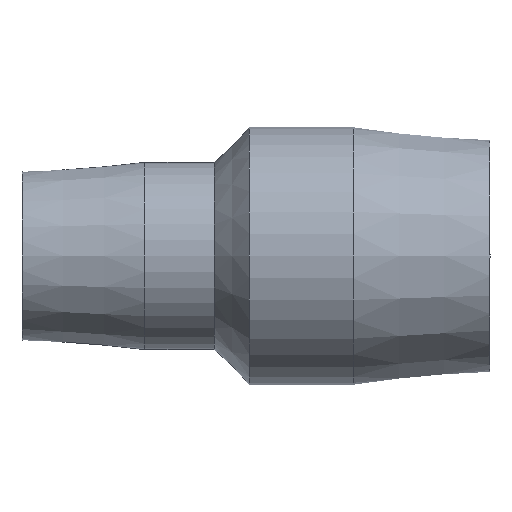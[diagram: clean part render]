
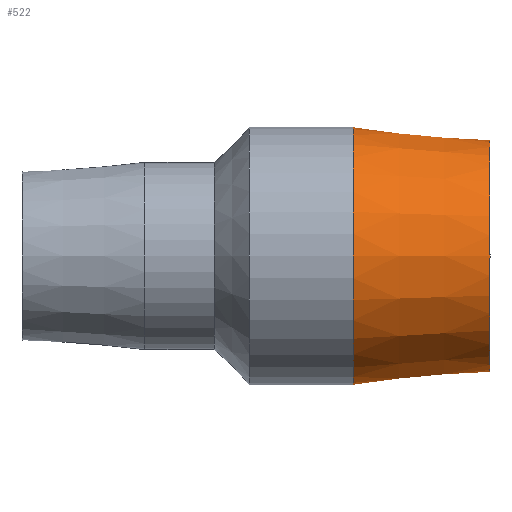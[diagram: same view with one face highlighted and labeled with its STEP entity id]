
A CAD part, front view. The second image highlights one B-rep face of the part: STEP entity #522.
In plain terms, the highlighted conical face has half-angle 5.371 degrees and reference radius 20.9 mm.
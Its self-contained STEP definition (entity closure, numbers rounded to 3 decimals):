
#15=B_SPLINE_CURVE_WITH_KNOTS('',3,(#851,#852,#853,#854,#855,#856,#857,
#858,#859,#860,#861,#862,#863,#864,#865,#866,#867,#868,#869,#870,#871,#872,
#873,#874,#875,#876),.UNSPECIFIED.,.F.,.F.,(4,2,2,2,2,2,2,2,2,2,2,2,4),
(0.,0.347,0.695,1.046,1.396,
1.747,2.098,2.446,2.793,3.175,
3.557,3.927,4.297),.UNSPECIFIED.);
#16=B_SPLINE_CURVE_WITH_KNOTS('',3,(#877,#878,#879,#880,#881,#882,#883,
#884,#885,#886),.UNSPECIFIED.,.F.,.F.,(4,2,2,2,4),(4.297,4.668,
5.038,5.42,5.801),.UNSPECIFIED.);
#25=CONICAL_SURFACE('',#594,20.9,0.094);
#34=FACE_BOUND('',#143,.T.);
#50=LINE('',#984,#69);
#69=VECTOR('',#729,20.9);
#106=FACE_OUTER_BOUND('',#142,.T.);
#142=EDGE_LOOP('',(#405,#406,#407,#408,#409,#410));
#143=EDGE_LOOP('',(#411,#412));
#183=CIRCLE('',#592,22.);
#184=CIRCLE('',#593,22.);
#185=CIRCLE('',#595,19.8);
#186=CIRCLE('',#596,19.8);
#222=VERTEX_POINT('',#849);
#223=VERTEX_POINT('',#850);
#237=VERTEX_POINT('',#974);
#238=VERTEX_POINT('',#975);
#239=VERTEX_POINT('',#980);
#240=VERTEX_POINT('',#981);
#278=EDGE_CURVE('',#222,#223,#15,.T.);
#279=EDGE_CURVE('',#223,#222,#16,.T.);
#301=EDGE_CURVE('',#237,#238,#183,.T.);
#302=EDGE_CURVE('',#238,#237,#184,.T.);
#304=EDGE_CURVE('',#239,#240,#185,.T.);
#305=EDGE_CURVE('',#240,#239,#186,.T.);
#306=EDGE_CURVE('',#240,#238,#50,.T.);
#405=ORIENTED_EDGE('',*,*,#304,.F.);
#406=ORIENTED_EDGE('',*,*,#305,.F.);
#407=ORIENTED_EDGE('',*,*,#306,.T.);
#408=ORIENTED_EDGE('',*,*,#302,.T.);
#409=ORIENTED_EDGE('',*,*,#301,.T.);
#410=ORIENTED_EDGE('',*,*,#306,.F.);
#411=ORIENTED_EDGE('',*,*,#278,.T.);
#412=ORIENTED_EDGE('',*,*,#279,.T.);
#522=ADVANCED_FACE('',(#106,#34),#25,.T.);
#592=AXIS2_PLACEMENT_3D('',#976,#718,#719);
#593=AXIS2_PLACEMENT_3D('',#977,#720,#721);
#594=AXIS2_PLACEMENT_3D('',#979,#723,#724);
#595=AXIS2_PLACEMENT_3D('',#982,#725,#726);
#596=AXIS2_PLACEMENT_3D('',#983,#727,#728);
#718=DIRECTION('center_axis',(1.,0.,0.));
#719=DIRECTION('ref_axis',(0.,0.,-1.));
#720=DIRECTION('center_axis',(1.,0.,0.));
#721=DIRECTION('ref_axis',(0.,0.,-1.));
#723=DIRECTION('center_axis',(-1.,0.,0.));
#724=DIRECTION('ref_axis',(0.,1.,0.));
#725=DIRECTION('center_axis',(1.,0.,0.));
#726=DIRECTION('ref_axis',(0.,0.,-1.));
#727=DIRECTION('center_axis',(1.,0.,0.));
#728=DIRECTION('ref_axis',(0.,0.,-1.));
#729=DIRECTION('',(-0.996,-0.094,0.));
#849=CARTESIAN_POINT('',(28.479,18.578,-9.537));
#850=CARTESIAN_POINT('',(18.733,21.799,0.));
#851=CARTESIAN_POINT('Ctrl Pts',(28.479,18.578,-9.537));
#852=CARTESIAN_POINT('Ctrl Pts',(29.633,18.482,-9.488));
#853=CARTESIAN_POINT('Ctrl Pts',(30.85,18.505,-9.202));
#854=CARTESIAN_POINT('Ctrl Pts',(33.059,18.756,-8.172));
#855=CARTESIAN_POINT('Ctrl Pts',(34.053,18.975,-7.428));
#856=CARTESIAN_POINT('Ctrl Pts',(35.617,19.394,-5.756));
#857=CARTESIAN_POINT('Ctrl Pts',(36.295,19.625,-4.706));
#858=CARTESIAN_POINT('Ctrl Pts',(37.198,19.951,-2.413));
#859=CARTESIAN_POINT('Ctrl Pts',(37.421,20.042,-1.169));
#860=CARTESIAN_POINT('Ctrl Pts',(37.421,20.042,1.169));
#861=CARTESIAN_POINT('Ctrl Pts',(37.198,19.951,2.413));
#862=CARTESIAN_POINT('Ctrl Pts',(36.295,19.625,4.706));
#863=CARTESIAN_POINT('Ctrl Pts',(35.617,19.394,5.756));
#864=CARTESIAN_POINT('Ctrl Pts',(34.053,18.975,7.428));
#865=CARTESIAN_POINT('Ctrl Pts',(33.059,18.756,8.172));
#866=CARTESIAN_POINT('Ctrl Pts',(30.85,18.505,9.202));
#867=CARTESIAN_POINT('Ctrl Pts',(29.633,18.482,9.488));
#868=CARTESIAN_POINT('Ctrl Pts',(27.212,18.684,9.592));
#869=CARTESIAN_POINT('Ctrl Pts',(25.887,18.944,9.37));
#870=CARTESIAN_POINT('Ctrl Pts',(23.478,19.638,8.406));
#871=CARTESIAN_POINT('Ctrl Pts',(22.39,20.062,7.664));
#872=CARTESIAN_POINT('Ctrl Pts',(20.698,20.795,5.966));
#873=CARTESIAN_POINT('Ctrl Pts',(19.966,21.157,4.901));
#874=CARTESIAN_POINT('Ctrl Pts',(18.982,21.662,2.536));
#875=CARTESIAN_POINT('Ctrl Pts',(18.733,21.799,1.234));
#876=CARTESIAN_POINT('Ctrl Pts',(18.733,21.799,0.));
#877=CARTESIAN_POINT('Ctrl Pts',(18.733,21.799,0.));
#878=CARTESIAN_POINT('Ctrl Pts',(18.733,21.799,-1.234));
#879=CARTESIAN_POINT('Ctrl Pts',(18.982,21.662,-2.536));
#880=CARTESIAN_POINT('Ctrl Pts',(19.966,21.157,-4.901));
#881=CARTESIAN_POINT('Ctrl Pts',(20.698,20.795,-5.966));
#882=CARTESIAN_POINT('Ctrl Pts',(22.39,20.062,-7.664));
#883=CARTESIAN_POINT('Ctrl Pts',(23.478,19.638,-8.406));
#884=CARTESIAN_POINT('Ctrl Pts',(25.887,18.944,-9.37));
#885=CARTESIAN_POINT('Ctrl Pts',(27.212,18.684,-9.592));
#886=CARTESIAN_POINT('Ctrl Pts',(28.479,18.578,-9.537));
#974=CARTESIAN_POINT('',(16.6,22.,0.));
#975=CARTESIAN_POINT('',(16.6,-22.,0.));
#976=CARTESIAN_POINT('Origin',(16.6,0.,0.));
#977=CARTESIAN_POINT('Origin',(16.6,0.,0.));
#979=CARTESIAN_POINT('Origin',(28.3,0.,0.));
#980=CARTESIAN_POINT('',(40.,19.8,0.));
#981=CARTESIAN_POINT('',(40.,-19.8,0.));
#982=CARTESIAN_POINT('Origin',(40.,0.,0.));
#983=CARTESIAN_POINT('Origin',(40.,0.,0.));
#984=CARTESIAN_POINT('',(28.3,-20.9,0.));
